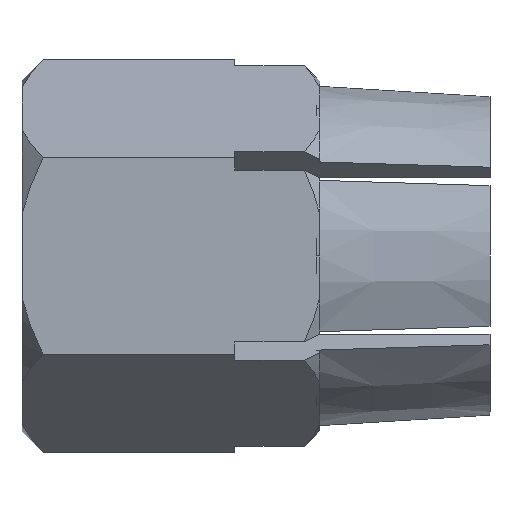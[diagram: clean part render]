
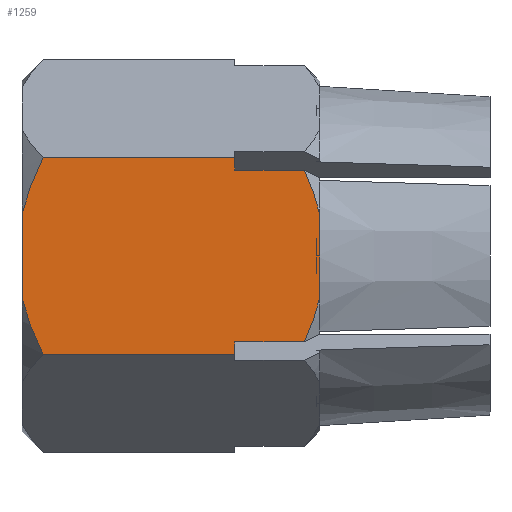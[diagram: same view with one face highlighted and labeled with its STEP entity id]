
A CAD part, left-side view. The second image highlights one B-rep face of the part: STEP entity #1259.
In plain terms, the highlighted planar face has unit normal (-1, 0, 0).
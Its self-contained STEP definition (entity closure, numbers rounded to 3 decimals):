
#239=CARTESIAN_POINT('',(-4.,10.5,2.309));
#240=VERTEX_POINT('',#239);
#254=CARTESIAN_POINT('',(-4.,11.,0.982));
#255=VERTEX_POINT('',#254);
#263=CARTESIAN_POINT('',(-4.,10.5,2.309));
#264=CARTESIAN_POINT('',(-4.,10.851,1.608));
#265=CARTESIAN_POINT('',(-4.,11.,0.982));
#273=(BOUNDED_CURVE()B_SPLINE_CURVE(2,(#263,#264,#265),.UNSPECIFIED.,.F.,.U.)B_SPLINE_CURVE_WITH_KNOTS((3,3),(0.0,0.142),.UNSPECIFIED.)CURVE()GEOMETRIC_REPRESENTATION_ITEM()RATIONAL_B_SPLINE_CURVE((1.0,1.012,1.0))REPRESENTATION_ITEM(''));
#274=EDGE_CURVE('',#240,#255,#273,.T.);
#284=CARTESIAN_POINT('',(-4.0,10.5,-2.309));
#285=VERTEX_POINT('',#284);
#301=CARTESIAN_POINT('',(-4.,11.,-0.982));
#302=VERTEX_POINT('',#301);
#303=CARTESIAN_POINT('',(-4.,11.,-0.982));
#304=CARTESIAN_POINT('',(-4.,10.851,-1.608));
#305=CARTESIAN_POINT('',(-4.,10.5,-2.309));
#313=(BOUNDED_CURVE()B_SPLINE_CURVE(2,(#303,#304,#305),.UNSPECIFIED.,.F.,.U.)B_SPLINE_CURVE_WITH_KNOTS((3,3),(0.0,0.142),.UNSPECIFIED.)CURVE()GEOMETRIC_REPRESENTATION_ITEM()RATIONAL_B_SPLINE_CURVE((1.0,1.012,1.0))REPRESENTATION_ITEM(''));
#314=EDGE_CURVE('',#302,#285,#313,.T.);
#566=CARTESIAN_POINT('',(-4.,4.,0.982));
#567=VERTEX_POINT('',#566);
#568=CARTESIAN_POINT('',(-4.,4.363,2.021));
#569=VERTEX_POINT('',#568);
#570=CARTESIAN_POINT('',(-4.,4.,0.982));
#571=CARTESIAN_POINT('',(-4.,4.119,1.48));
#572=CARTESIAN_POINT('',(-4.,4.363,2.021));
#580=(BOUNDED_CURVE()B_SPLINE_CURVE(2,(#570,#571,#572),.UNSPECIFIED.,.F.,.U.)B_SPLINE_CURVE_WITH_KNOTS((3,3),(0.0,0.113),.UNSPECIFIED.)CURVE()GEOMETRIC_REPRESENTATION_ITEM()RATIONAL_B_SPLINE_CURVE((1.0,1.009,1.004))REPRESENTATION_ITEM(''));
#581=EDGE_CURVE('',#567,#569,#580,.T.);
#848=CARTESIAN_POINT('',(-4.0,4.363,-2.021));
#849=VERTEX_POINT('',#848);
#850=CARTESIAN_POINT('',(-4.,4.,-0.982));
#851=VERTEX_POINT('',#850);
#852=CARTESIAN_POINT('',(-4.0,4.363,-2.021));
#853=CARTESIAN_POINT('',(-4.,4.119,-1.48));
#854=CARTESIAN_POINT('',(-4.,4.,-0.982));
#862=(BOUNDED_CURVE()B_SPLINE_CURVE(2,(#852,#853,#854),.UNSPECIFIED.,.F.,.U.)B_SPLINE_CURVE_WITH_KNOTS((3,3),(0.029,0.142),.UNSPECIFIED.)CURVE()GEOMETRIC_REPRESENTATION_ITEM()RATIONAL_B_SPLINE_CURVE((1.004,1.009,1.0))REPRESENTATION_ITEM(''));
#863=EDGE_CURVE('',#849,#851,#862,.T.);
#896=CARTESIAN_POINT('',(-4.,11.,0.982));
#897=DIRECTION('',(0.0,0.0,-1.0));
#898=VECTOR('',#897,1.964);
#899=LINE('',#896,#898);
#900=EDGE_CURVE('',#255,#302,#899,.T.);
#965=CARTESIAN_POINT('',(-4.,4.,0.));
#966=VERTEX_POINT('',#965);
#974=CARTESIAN_POINT('',(-4.,4.,-0.982));
#975=DIRECTION('',(0.0,0.0,1.0));
#976=VECTOR('',#975,0.982);
#977=LINE('',#974,#976);
#978=EDGE_CURVE('',#851,#966,#977,.T.);
#1187=CARTESIAN_POINT('',(-4.0,11.0,-2.309));
#1188=DIRECTION('',(-1.0,0.0,0.0));
#1189=DIRECTION('',(0.0,0.0,1.0));
#1190=AXIS2_PLACEMENT_3D('',#1187,#1188,#1189);
#1191=PLANE('',#1190);
#1192=ORIENTED_EDGE('',*,*,#314,.T.);
#1193=CARTESIAN_POINT('',(-4.0,6.,-2.309));
#1194=VERTEX_POINT('',#1193);
#1195=CARTESIAN_POINT('',(-4.0,10.5,-2.309));
#1196=DIRECTION('',(0.0,-1.0,0.0));
#1197=VECTOR('',#1196,4.5);
#1198=LINE('',#1195,#1197);
#1199=EDGE_CURVE('',#285,#1194,#1198,.T.);
#1200=ORIENTED_EDGE('',*,*,#1199,.T.);
#1201=CARTESIAN_POINT('',(-4.0,6.,-2.021));
#1202=VERTEX_POINT('',#1201);
#1203=CARTESIAN_POINT('',(-4.0,6.,-2.309));
#1204=DIRECTION('',(0.0,0.0,1.0));
#1205=VECTOR('',#1204,0.289);
#1206=LINE('',#1203,#1205);
#1207=EDGE_CURVE('',#1194,#1202,#1206,.T.);
#1208=ORIENTED_EDGE('',*,*,#1207,.T.);
#1209=CARTESIAN_POINT('',(-4.0,6.,-2.021));
#1210=DIRECTION('',(0.0,-1.0,0.0));
#1211=VECTOR('',#1210,1.637);
#1212=LINE('',#1209,#1211);
#1213=EDGE_CURVE('',#1202,#849,#1212,.T.);
#1214=ORIENTED_EDGE('',*,*,#1213,.T.);
#1215=ORIENTED_EDGE('',*,*,#863,.T.);
#1216=ORIENTED_EDGE('',*,*,#978,.T.);
#1217=CARTESIAN_POINT('',(-4.,4.087,0.));
#1218=VERTEX_POINT('',#1217);
#1219=CARTESIAN_POINT('',(-4.,4.087,0.));
#1220=DIRECTION('',(0.0,-1.0,0.0));
#1221=VECTOR('',#1220,0.087);
#1222=LINE('',#1219,#1221);
#1223=EDGE_CURVE('',#1218,#966,#1222,.T.);
#1224=ORIENTED_EDGE('',*,*,#1223,.F.);
#1225=ORIENTED_EDGE('',*,*,#1223,.T.);
#1226=CARTESIAN_POINT('',(-4.,4.,0.));
#1227=DIRECTION('',(0.0,0.0,1.0));
#1228=VECTOR('',#1227,0.982);
#1229=LINE('',#1226,#1228);
#1230=EDGE_CURVE('',#966,#567,#1229,.T.);
#1231=ORIENTED_EDGE('',*,*,#1230,.T.);
#1232=ORIENTED_EDGE('',*,*,#581,.T.);
#1233=CARTESIAN_POINT('',(-4.,6.,2.021));
#1234=VERTEX_POINT('',#1233);
#1235=CARTESIAN_POINT('',(-4.,4.363,2.021));
#1236=DIRECTION('',(0.0,1.0,0.0));
#1237=VECTOR('',#1236,1.637);
#1238=LINE('',#1235,#1237);
#1239=EDGE_CURVE('',#569,#1234,#1238,.T.);
#1240=ORIENTED_EDGE('',*,*,#1239,.T.);
#1241=CARTESIAN_POINT('',(-4.,6.,2.309));
#1242=VERTEX_POINT('',#1241);
#1243=CARTESIAN_POINT('',(-4.,6.,2.021));
#1244=DIRECTION('',(0.0,0.0,1.0));
#1245=VECTOR('',#1244,0.289);
#1246=LINE('',#1243,#1245);
#1247=EDGE_CURVE('',#1234,#1242,#1246,.T.);
#1248=ORIENTED_EDGE('',*,*,#1247,.T.);
#1249=CARTESIAN_POINT('',(-4.,10.5,2.309));
#1250=DIRECTION('',(0.0,-1.0,0.0));
#1251=VECTOR('',#1250,4.5);
#1252=LINE('',#1249,#1251);
#1253=EDGE_CURVE('',#240,#1242,#1252,.T.);
#1254=ORIENTED_EDGE('',*,*,#1253,.F.);
#1255=ORIENTED_EDGE('',*,*,#274,.T.);
#1256=ORIENTED_EDGE('',*,*,#900,.T.);
#1257=EDGE_LOOP('',(#1192,#1200,#1208,#1214,#1215,#1216,#1224,#1225,#1231,#1232,#1240,#1248,#1254,#1255,#1256));
#1258=FACE_OUTER_BOUND('',#1257,.T.);
#1259=ADVANCED_FACE('',(#1258),#1191,.T.);
